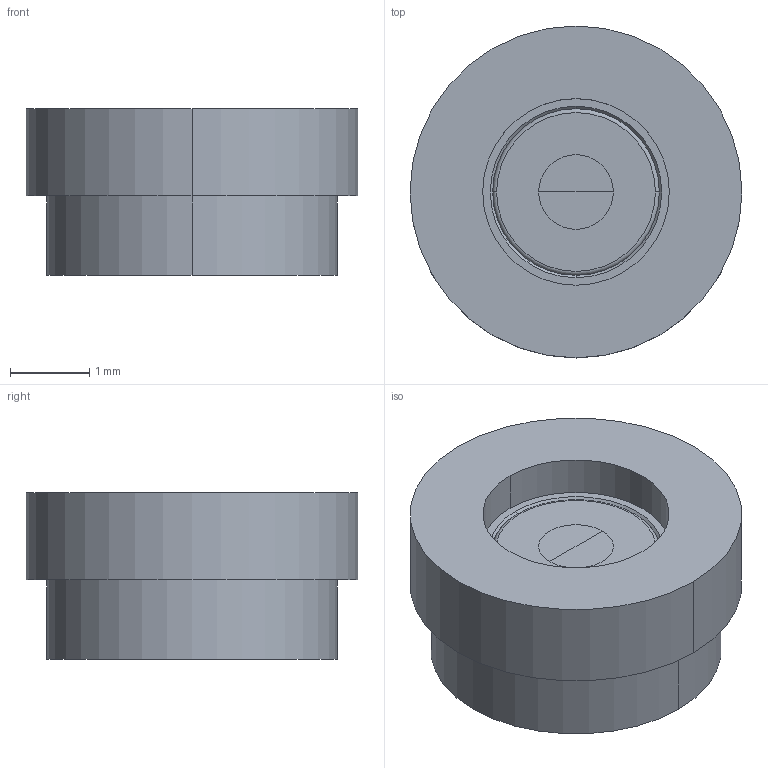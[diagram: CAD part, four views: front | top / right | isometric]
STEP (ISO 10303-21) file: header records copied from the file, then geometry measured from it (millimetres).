
FILE_DESCRIPTION((''),'2;1');
FILE_NAME('355290_ASM','2025-07-30T21:40:05',('admin'),('LIGHTPATH'),'CREO PARAMETRIC BY PTC INC, 2024063','CREO PARAMETRIC BY PTC INC, 2024063','');
FILE_SCHEMA(('CONFIG_CONTROL_DESIGN'));
Length unit declared in the file: millimetre
Products named in the file (3): 355290; 6100636; 355290_ASM
Assembly tree (2 placements, depth 2):
  355290_ASM
    355290
    6100636
Bounding box: 4.18 x 4.18 x 2.1 mm (x, y, z)
Volume: 22.2 mm3; surface area: 74.7 mm2
Topology: 2 solids, 2 shells, 30 faces, 62 edges, 36 vertices
Faces by surface type: cylinder 10, plane 6, torus 6, revolution 4, cone 4
Entity records: 893 total; most frequent: DIRECTION 162, CARTESIAN_POINT 156, ORIENTED_EDGE 116, AXIS2_PLACEMENT_3D 71, EDGE_CURVE 58, CIRCLE 40, VERTEX_POINT 36, EDGE_LOOP 36
